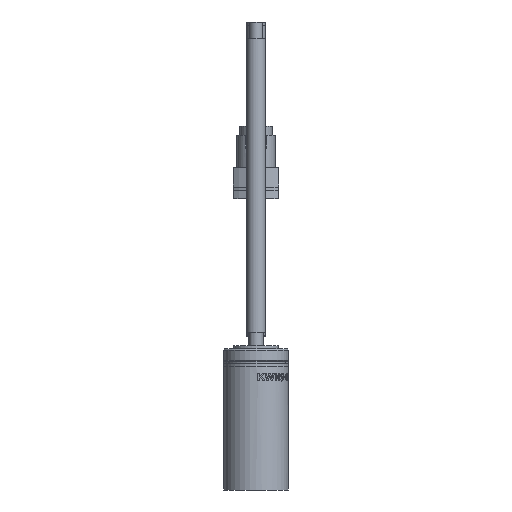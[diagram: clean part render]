
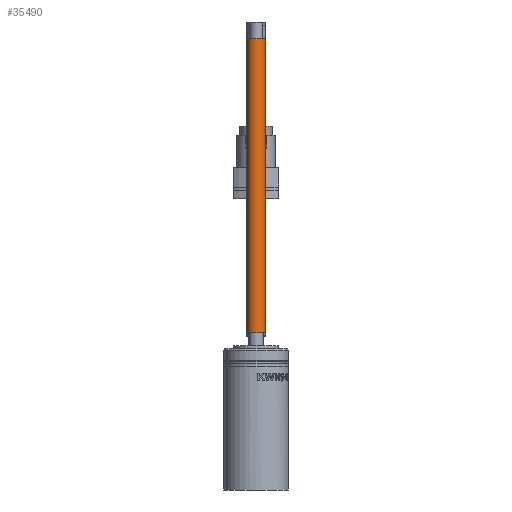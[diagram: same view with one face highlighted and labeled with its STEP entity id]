
A CAD part, left-side view. The second image highlights one B-rep face of the part: STEP entity #35490.
In plain terms, the highlighted cylindrical face has radius 1.5 mm (diameter 3 mm), a full revolution.
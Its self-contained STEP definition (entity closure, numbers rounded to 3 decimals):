
#35490=ADVANCED_FACE('',(#38256,#38257),#36236,.T.);
#36236=CYLINDRICAL_SURFACE('',#85391,1.5);
#38256=FACE_BOUND('',#43264,.T.);
#38257=FACE_BOUND('',#43265,.T.);
#43264=EDGE_LOOP('',(#60812));
#43265=EDGE_LOOP('',(#60813));
#60812=ORIENTED_EDGE('',*,*,#75742,.F.);
#60813=ORIENTED_EDGE('',*,*,#75741,.F.);
#66967=VERTEX_POINT('',#178061);
#66968=VERTEX_POINT('',#178064);
#75741=EDGE_CURVE('',#66967,#66967,#77688,.T.);
#75742=EDGE_CURVE('',#66968,#66968,#77689,.T.);
#77688=CIRCLE('',#85388,1.5);
#77689=CIRCLE('',#85390,1.5);
#85388=AXIS2_PLACEMENT_3D('',#178060,#97202,#97203);
#85390=AXIS2_PLACEMENT_3D('',#178063,#97206,#97207);
#85391=AXIS2_PLACEMENT_3D('',#178065,#97208,#97209);
#97202=DIRECTION('',(0.,0.,1.));
#97203=DIRECTION('',(-1.,0.,0.));
#97206=DIRECTION('',(0.,0.,-1.));
#97207=DIRECTION('',(-1.,0.,0.));
#97208=DIRECTION('',(0.,0.,-1.));
#97209=DIRECTION('',(-1.,0.,0.));
#178060=CARTESIAN_POINT('',(-186.,0.,69.8));
#178061=CARTESIAN_POINT('',(-187.5,0.,69.8));
#178063=CARTESIAN_POINT('',(-186.,0.,24.3));
#178064=CARTESIAN_POINT('',(-187.5,0.,24.3));
#178065=CARTESIAN_POINT('',(-186.,0.,21.8));
